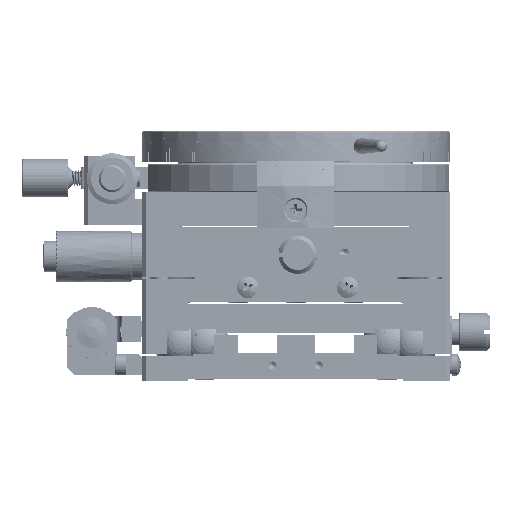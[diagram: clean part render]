
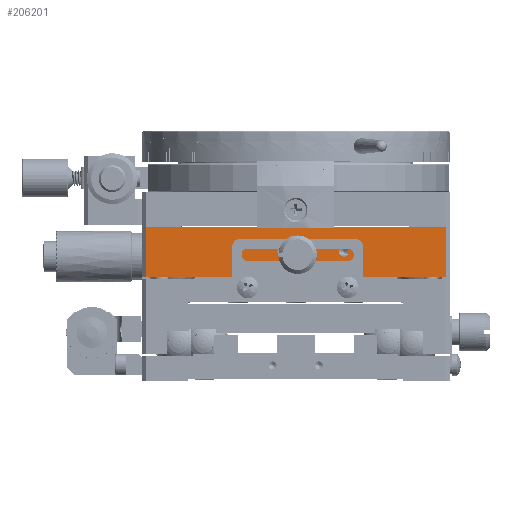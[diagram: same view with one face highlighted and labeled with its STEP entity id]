
A CAD part, top view. The second image highlights one B-rep face of the part: STEP entity #206201.
In plain terms, the highlighted planar face has unit normal (0, 0, 1).
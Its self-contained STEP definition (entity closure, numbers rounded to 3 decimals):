
#18244 = CIRCLE ( 'NONE', #354914, 1.25 ) ;
#24449 = CARTESIAN_POINT ( 'NONE',  ( 0.5, -7.25, 40. ) ) ;
#27020 = PLANE ( 'NONE',  #77480 ) ;
#28495 = EDGE_CURVE ( 'NONE', #294521, #294521, #396202, .T. ) ;
#32320 = DIRECTION ( 'NONE',  ( 1., 0., 0. ) ) ;
#55346 = EDGE_CURVE ( 'NONE', #64584, #128498, #164547, .T. ) ;
#64584 = VERTEX_POINT ( 'NONE', #342077 ) ;
#64809 = DIRECTION ( 'NONE',  ( 0., 0., 1. ) ) ;
#73928 = DIRECTION ( 'NONE',  ( 0., 0., 1. ) ) ;
#75940 = LINE ( 'NONE', #78387, #261997 ) ;
#77480 = AXIS2_PLACEMENT_3D ( 'NONE', #326093, #103035, #475619 ) ;
#78387 = CARTESIAN_POINT ( 'NONE',  ( -40., -13., 40. ) ) ;
#93238 = DIRECTION ( 'NONE',  ( 1., 0., 0. ) ) ;
#103035 = DIRECTION ( 'NONE',  ( 0., 0., 1. ) ) ;
#106417 = AXIS2_PLACEMENT_3D ( 'NONE', #324169, #73928, #32320 ) ;
#110303 = DIRECTION ( 'NONE',  ( 1., 0., 0. ) ) ;
#128498 = VERTEX_POINT ( 'NONE', #463352 ) ;
#142199 = FACE_BOUND ( 'NONE', #209283, .T. ) ;
#164547 = LINE ( 'NONE', #314053, #259149 ) ;
#170872 = EDGE_CURVE ( 'NONE', #329189, #128498, #217498, .T. ) ;
#173088 = VECTOR ( 'NONE', #256687, 1000. ) ;
#175145 = DIRECTION ( 'NONE',  ( 1., 0., 0. ) ) ;
#185908 = VECTOR ( 'NONE', #472041, 1000. ) ;
#188028 = EDGE_LOOP ( 'NONE', ( #435909 ) ) ;
#206201 = ADVANCED_FACE ( 'NONE', ( #142199, #399711, #213338, #291691 ), #27020, .T. ) ;
#208911 = ORIENTED_EDGE ( 'NONE', *, *, #322196, .T. ) ;
#209283 = EDGE_LOOP ( 'NONE', ( #426545 ) ) ;
#211940 = CARTESIAN_POINT ( 'NONE',  ( -3.5, -6.5, 40. ) ) ;
#213338 = FACE_BOUND ( 'NONE', #373777, .T. ) ;
#216238 = CARTESIAN_POINT ( 'NONE',  ( -39., -13., 40. ) ) ;
#217498 = LINE ( 'NONE', #443025, #173088 ) ;
#222590 = VERTEX_POINT ( 'NONE', #216238 ) ;
#230507 = EDGE_CURVE ( 'NONE', #354439, #354439, #18244, .T. ) ;
#255654 = CIRCLE ( 'NONE', #279087, 1.25 ) ;
#256687 = DIRECTION ( 'NONE',  ( 1., 0., 0. ) ) ;
#258574 = CARTESIAN_POINT ( 'NONE',  ( -39., -13., 40. ) ) ;
#259149 = VECTOR ( 'NONE', #397366, 1000. ) ;
#261997 = VECTOR ( 'NONE', #110303, 1000. ) ;
#279087 = AXIS2_PLACEMENT_3D ( 'NONE', #211940, #64809, #175145 ) ;
#283868 = ORIENTED_EDGE ( 'NONE', *, *, #55346, .T. ) ;
#291691 = FACE_OUTER_BOUND ( 'NONE', #424048, .T. ) ;
#294521 = VERTEX_POINT ( 'NONE', #444123 ) ;
#312761 = CARTESIAN_POINT ( 'NONE',  ( 1.75, -7.25, 40. ) ) ;
#314053 = CARTESIAN_POINT ( 'NONE',  ( 39., -13., 40. ) ) ;
#321085 = DIRECTION ( 'NONE',  ( 0., 0., 1. ) ) ;
#322196 = EDGE_CURVE ( 'NONE', #329189, #222590, #324915, .T. ) ;
#324169 = CARTESIAN_POINT ( 'NONE',  ( 12.5, -6.5, 40. ) ) ;
#324915 = LINE ( 'NONE', #258574, #185908 ) ;
#326093 = CARTESIAN_POINT ( 'NONE',  ( -40., -13., 40. ) ) ;
#329189 = VERTEX_POINT ( 'NONE', #393515 ) ;
#342077 = CARTESIAN_POINT ( 'NONE',  ( 39., -13., 40. ) ) ;
#354439 = VERTEX_POINT ( 'NONE', #312761 ) ;
#354914 = AXIS2_PLACEMENT_3D ( 'NONE', #24449, #321085, #93238 ) ;
#356941 = EDGE_CURVE ( 'NONE', #222590, #64584, #75940, .T. ) ;
#361067 = ORIENTED_EDGE ( 'NONE', *, *, #230507, .F. ) ;
#365741 = EDGE_CURVE ( 'NONE', #461621, #461621, #255654, .T. ) ;
#373777 = EDGE_LOOP ( 'NONE', ( #361067 ) ) ;
#393515 = CARTESIAN_POINT ( 'NONE',  ( -39., 0., 40. ) ) ;
#396202 = CIRCLE ( 'NONE', #106417, 1.25 ) ;
#397366 = DIRECTION ( 'NONE',  ( 0., 1., 0. ) ) ;
#399711 = FACE_BOUND ( 'NONE', #188028, .T. ) ;
#424048 = EDGE_LOOP ( 'NONE', ( #457950, #283868, #463159, #208911 ) ) ;
#426545 = ORIENTED_EDGE ( 'NONE', *, *, #28495, .F. ) ;
#435909 = ORIENTED_EDGE ( 'NONE', *, *, #365741, .F. ) ;
#443025 = CARTESIAN_POINT ( 'NONE',  ( -40., 0., 40. ) ) ;
#444123 = CARTESIAN_POINT ( 'NONE',  ( 13.75, -6.5, 40. ) ) ;
#457950 = ORIENTED_EDGE ( 'NONE', *, *, #356941, .T. ) ;
#461621 = VERTEX_POINT ( 'NONE', #471229 ) ;
#463159 = ORIENTED_EDGE ( 'NONE', *, *, #170872, .F. ) ;
#463352 = CARTESIAN_POINT ( 'NONE',  ( 39., 0., 40. ) ) ;
#471229 = CARTESIAN_POINT ( 'NONE',  ( -2.25, -6.5, 40. ) ) ;
#472041 = DIRECTION ( 'NONE',  ( 0., -1., 0. ) ) ;
#475619 = DIRECTION ( 'NONE',  ( 1., 0., 0. ) ) ;
